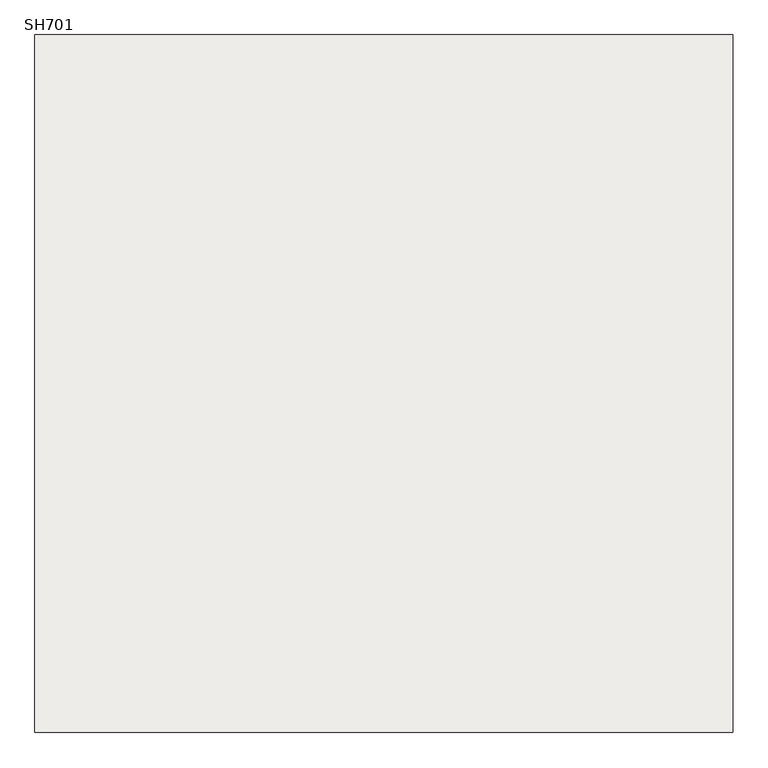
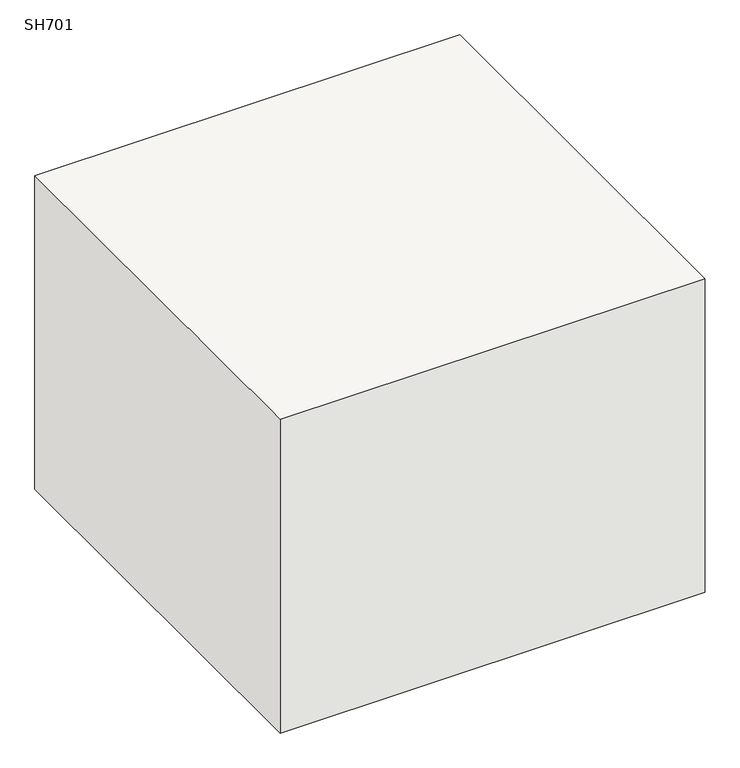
"""IFC4 building model written with IfcOpenShell, lengths in millimetres: slab geometry, 柱形_SH : SH701."""

from ifc_helpers import new_model, si_unit, frame, origin, place, context, project, spatial, polyline, outline, extrude, source, transform, mapped, element, save


def sh701_66dc8db6(model_context):
    return source(origin(), model_context, "Body", "SweptSolid", [
        extrude(outline(polyline([(640.0, 640.0), (640.0, -640.0), (-640.0, -640.0), (-640.0, 640.0), (640.0, 640.0)])), frame((0.0, 0.0, -1000.0), z_axis=(0.0, 0.0, 1.0), x_axis=(1.0, 0.0, 0.0)), (0.0, 0.0, 1.0), 1000.0),
    ])


if __name__ == "__main__":
    model = new_model("IFC4")
    model_context = context("Model", 3, world=origin())
    ifc_project = project(units=[si_unit("LENGTHUNIT", "METRE", prefix="MILLI")], contexts=[model_context])
    site = spatial("IfcSite", under=ifc_project)
    building = spatial("IfcBuilding", under=site)
    placement = place(None, origin())
    sh701_shape = sh701_66dc8db6(model_context)
    element("IfcSlab", 1, ObjectType="柱形_SH : SH701", at=placement, inside=building, context=model_context, shape_type="MappedRepresentation", body=[
        mapped(sh701_shape, transform((0.0, 0.0, 0.0), x_axis=(1.0, 0.0, 0.0), y_axis=(0.0, 1.0, 0.0), z_axis=(0.0, 0.0, 1.0))),
    ])
    save(model, "model.ifc")
